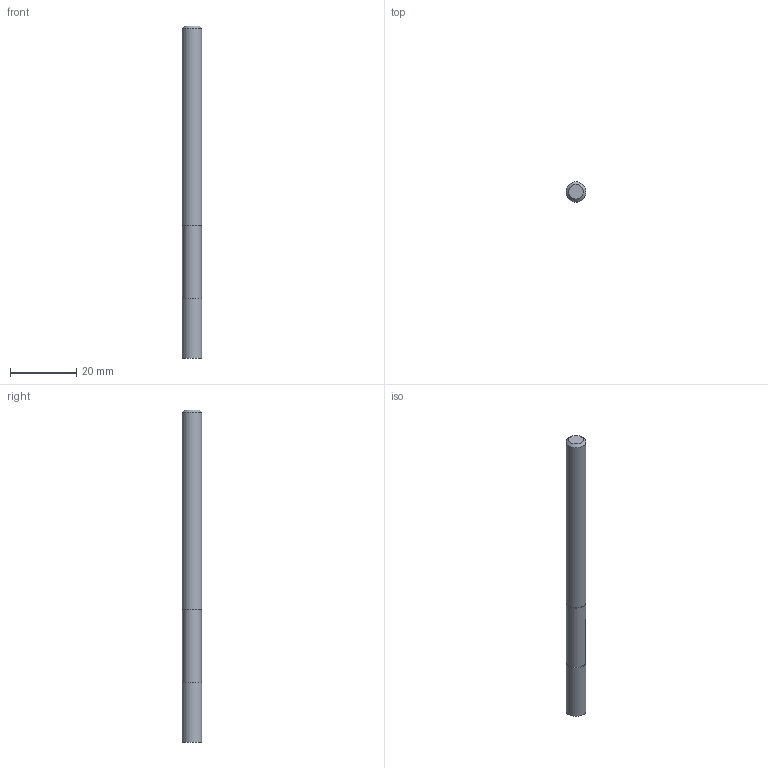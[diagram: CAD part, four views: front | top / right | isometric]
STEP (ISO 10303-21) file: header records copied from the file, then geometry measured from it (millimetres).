
FILE_DESCRIPTION((''),'2;1');
FILE_NAME('C:\Users\nsx150\Desktop\RSE230_20210427\01-00644-06040 RSE230 D6X18X40.step','2021-05-07T14:54:32',(''),(''),'STEP Write','Mastercam 2021 ... CNC Software, Inc.','');
FILE_SCHEMA(('AUTOMOTIVE_DESIGN'));
Length unit declared in the file: millimetre
Products named in the file (1): None
Bounding box: 6 x 6 x 100 mm (x, y, z)
Volume: 2781.2 mm3; surface area: 1974.6 mm2
Topology: 2 solids, 2 shells, 9 faces, 11 edges, 7 vertices
Faces by surface type: plane 5, cylinder 3, cone 1
Full cylindrical faces by diameter (mm): 5.8 x1, 6 x2
Entity records: 211 total; most frequent: DIRECTION 36, CARTESIAN_POINT 25, AXIS2_PLACEMENT_3D 18, ORIENTED_EDGE 14, EDGE_LOOP 14, STYLED_ITEM 12, ADVANCED_FACE 9, FACE_BOUND 8
